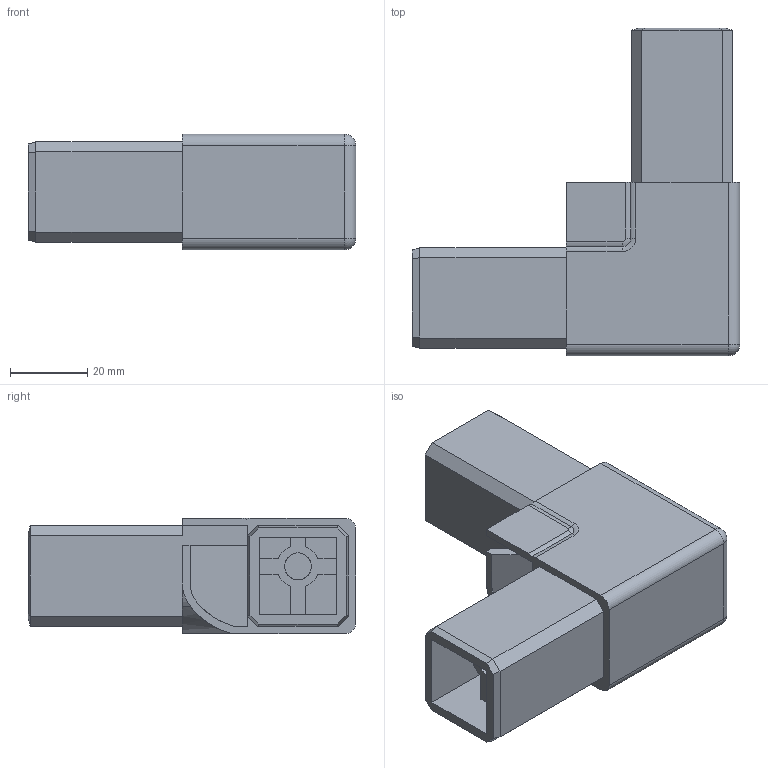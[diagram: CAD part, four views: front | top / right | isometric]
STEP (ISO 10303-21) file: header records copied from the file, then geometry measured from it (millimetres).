
FILE_DESCRIPTION (( 'STEP AP214' ), '1' );
FILE_NAME ('L15842.step', '2024-12-03T16:19:50', ( '' ), ( '' ), 'SwSTEP 2.0', 'SolidWorks 2023', '' );
FILE_SCHEMA (( 'AUTOMOTIVE_DESIGN' ));
Length unit declared in the file: millimetre
Products named in the file (1): L15842
Bounding box: 85 x 85 x 30 mm (x, y, z)
Volume: 65266.3 mm3; surface area: 37282.6 mm2
Topology: 1 solids, 1 shells, 120 faces, 338 edges, 214 vertices
Faces by surface type: plane 87, cylinder 29, torus 2, sphere 2
Full cylindrical faces by diameter (mm): 7 x4
Entity records: 3820 total; most frequent: CARTESIAN_POINT 759, ORIENTED_EDGE 648, DIRECTION 605, EDGE_CURVE 324, LINE 257, VECTOR 257, VERTEX_POINT 208, AXIS2_PLACEMENT_3D 174
